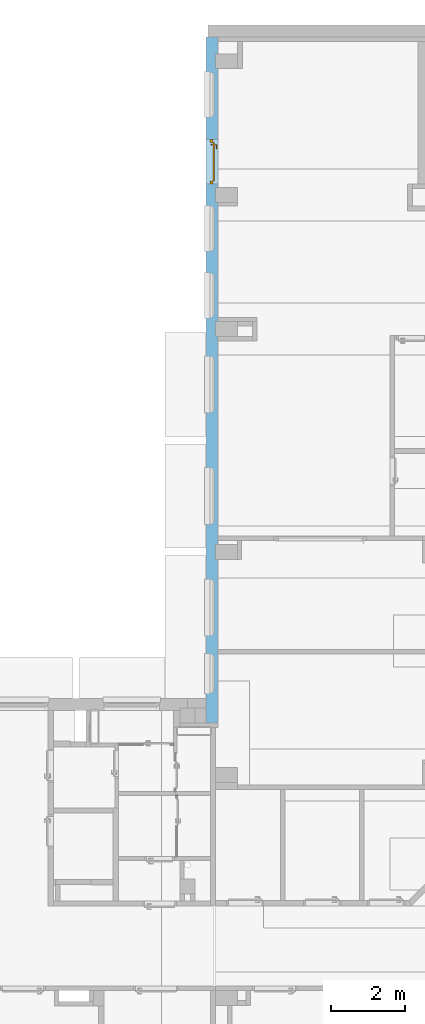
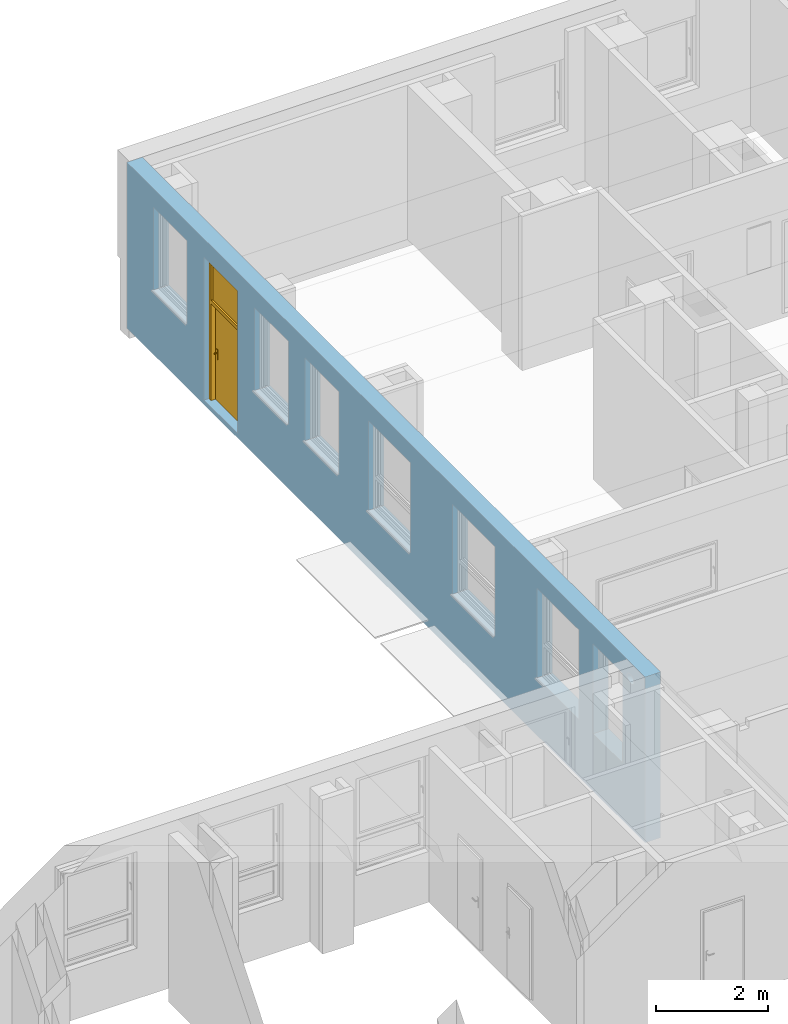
# One storey, part 93 of 140: 1 door, 9 openings, plus 1 element that does not belong to this part.
"""IFC4 building model written with IfcOpenShell, lengths in metres."""

from ifc_helpers import new_model, entity, si_unit, converted_unit, derived_unit, frame, frame_2d, origin, origin_with_axes, place, context, subcontext, project, spatial, polyline, rectangle, outline, extrude, clip, bounded_halfspace, closed_shell, open_shell, surface_model, source, transform, mapped, material, layer, layer_set, layer_usage, type_object, element, fill, save


model = new_model("IFC4")

# Units and contexts
model_context = context("Model", 3, precision=1e-05, world=origin())
body_context = subcontext(model_context, "Body", "Model", "MODEL_VIEW")
ifc_project = project(units=[si_unit("LENGTHUNIT", "METRE"), si_unit("AREAUNIT", "SQUARE_METRE"), si_unit("VOLUMEUNIT", "CUBIC_METRE"), si_unit("MASSUNIT", "GRAM", prefix="KILO"), converted_unit("PLANEANGLEUNIT", "DEGREE", entity("IfcPlaneAngleMeasure", 0.0174532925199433), si_unit("PLANEANGLEUNIT", "RADIAN"), dimensions=[0, 0, 0, 0, 0, 0, 0]), derived_unit("THERMALTRANSMITTANCEUNIT", [(si_unit("POWERUNIT", "WATT"), 1), (si_unit("THERMODYNAMICTEMPERATUREUNIT", "KELVIN"), -1), (si_unit("LENGTHUNIT", "METRE"), -2)]), derived_unit("VOLUMETRICFLOWRATEUNIT", [(si_unit("LENGTHUNIT", "METRE"), 3), (converted_unit("TIMEUNIT", "hour", entity("IfcTimeMeasure", 3600.0), si_unit("TIMEUNIT", "SECOND"), dimensions=[0, 0, 1, 0, 0, 0, 0]), -1), (si_unit("LENGTHUNIT", "METRE"), -1)])], contexts=[model_context])

# Site, building, storey
site_placement = place(None, origin())
site = spatial("IfcSite", under=ifc_project, at=site_placement, Name="3. ASŘ", CompositionType="ELEMENT")
building_placement = place(site_placement, origin())
building = spatial("IfcBuilding", under=site, at=building_placement, Name="Pavilon C", CompositionType="ELEMENT")
storey_placement = place(building_placement, origin())
storey = spatial("IfcBuildingStorey", under=building, at=storey_placement, Name="Půdorys 1.NP", CompositionType="ELEMENT", Elevation=0.0)

# Wall, openings, door
ifc_material = material(Name="ZELEZOBETONOVÁ KCE")
ifc_layer = layer(ifc_material, 0.32)
ifc_layer_set = layer_set([ifc_layer])
ifc_layer_usage = layer_usage(ifc_layer_set, "AXIS2", "POSITIVE", 0.0)
wall_placement = place(storey_placement, frame((24.5, 33.05, -0.1), z_axis=(0.0, 0.0, 1.0), x_axis=(-1.97180423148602e-16, -1.0, 0.0)))
wall = element("IfcWall", 1, at=wall_placement, inside=storey, material=ifc_layer_usage, Name="ZELEZOBETONOVÁ KCE", context=body_context, shape_type="Clipping", body=[
    clip(clip(clip(clip(extrude(rectangle(XDim=18.45, YDim=0.32, at=frame_2d((9.225, 0.16), x_axis=(1.0, 0.0))), origin_with_axes(), (0.0, 0.0, 1.0), 3.6), bounded_halfspace(frame((0.65, 0.285, 3.35), z_axis=(0.0, 0.0, 1.0), x_axis=(1.97180423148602e-16, -1.0, 0.0)), True, origin_with_axes(), polyline([(0.45, 0.32), (0.45, 0.250000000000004), (0.85, 0.250000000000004), (0.85, 0.32), (0.45, 0.32)]))), bounded_halfspace(frame((4.25, 0.285000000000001, 3.35), z_axis=(0.0, 0.0, 1.0), x_axis=(1.97180423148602e-16, -1.0, 0.0)), True, origin_with_axes(), polyline([(4.05, 0.320000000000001), (4.05, 0.250000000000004), (4.45, 0.250000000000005), (4.45, 0.320000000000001), (4.05, 0.320000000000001)]))), bounded_halfspace(frame((7.85, 0.285000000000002, 3.35), z_axis=(0.0, 0.0, 1.0), x_axis=(1.97180423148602e-16, -1.0, 0.0)), True, origin_with_axes(), polyline([(7.65, 0.320000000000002), (7.65, 0.250000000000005), (8.05, 0.250000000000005), (8.05, 0.320000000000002), (7.65, 0.320000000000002)]))), bounded_halfspace(frame((13.85, 0.285000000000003, 3.35), z_axis=(0.0, 0.0, 1.0), x_axis=(1.97180423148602e-16, -1.0, 0.0)), True, origin_with_axes(), polyline([(13.65, 0.320000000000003), (13.65, 0.250000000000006), (14.05, 0.250000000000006), (14.05, 0.320000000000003), (13.65, 0.320000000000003)]))),
])
opening_1_placement = place(wall_placement, frame((18.3295933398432, 0.32, 3.15000000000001), z_axis=(-0.642787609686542, -0.766044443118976, 0.0), x_axis=(0.0, 0.0, 1.0)))
element("IfcOpeningElement", 2, at=opening_1_placement, cuts=wall, Name="CHL", ObjectType="Opening", context=body_context, shape_type="SweptSolid", body=[
    extrude(outline(polyline([(0.0999999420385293, 0.0), (0.0895470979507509, 0.000547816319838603), (0.0792087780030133, 0.00218525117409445), (0.0690982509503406, 0.00489436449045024), (0.059326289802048, 0.00864547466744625), (0.0499999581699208, 0.0133974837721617), (0.0412214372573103, 0.0190983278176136), (0.0330869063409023, 0.0256855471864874), (0.0256854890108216, 0.0330869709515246), (0.0190982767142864, 0.041221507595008), (0.0133974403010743, 0.0500000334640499), (0.00864543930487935, 0.0593263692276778), (0.0048943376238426, 0.0690983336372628), (0.00218523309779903, 0.0792088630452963), (0.000547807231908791, 0.0895471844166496), (0.0, 0.10000002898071), (0.000547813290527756, 0.110452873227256), (0.00218524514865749, 0.120791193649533), (0.00489435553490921, 0.130901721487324), (0.00864546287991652, 0.140673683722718), (0.0133974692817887, 0.150000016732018), (0.0190983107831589, 0.158778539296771), (0.0256855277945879, 0.166913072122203), (0.0330869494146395, 0.174314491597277), (0.0412214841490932, 0.180901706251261), (0.0500000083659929, 0.186602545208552), (0.0593263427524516, 0.191354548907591), (0.06909830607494, 0.195105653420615), (0.0792088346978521, 0.197814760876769), (0.0895471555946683, 0.199452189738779), (0.0999999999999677, 0.2), (0.110452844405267, 0.199452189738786), (0.120791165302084, 0.197814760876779), (0.130901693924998, 0.195105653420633), (0.140673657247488, 0.191354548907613), (0.14999999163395, 0.186602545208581), (0.158778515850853, 0.180901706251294), (0.16691305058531, 0.174314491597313), (0.174314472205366, 0.166913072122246), (0.180901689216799, 0.158778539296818), (0.186602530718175, 0.150000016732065), (0.191354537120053, 0.140673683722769), (0.195105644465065, 0.130901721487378), (0.197814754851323, 0.120791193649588), (0.199452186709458, 0.11045287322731), (0.199999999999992, 0.100000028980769), (0.199452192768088, 0.0895471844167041), (0.197814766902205, 0.0792088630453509), (0.195105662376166, 0.0690983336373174), (0.191354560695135, 0.0593263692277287), (0.186602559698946, 0.0500000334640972), (0.180901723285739, 0.0412215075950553), (0.174314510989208, 0.0330869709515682), (0.166913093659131, 0.0256855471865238), (0.158778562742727, 0.0190983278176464), (0.15000004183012, 0.0133974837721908), (0.140673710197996, 0.00864547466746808), (0.130901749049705, 0.00489436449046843), (0.120791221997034, 0.00218525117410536), (0.110452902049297, 0.000547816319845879), (0.0999999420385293, 0.0)])), origin_with_axes(), (0.0, 0.0, 1.0), 0.952730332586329),
])
opening_2_placement = place(wall_placement, frame((14.6, -7.5914462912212e-16, 1.25), z_axis=(0.0, 1.0, 0.0), x_axis=(0.0, 0.0, 1.0)))
element("IfcOpeningElement", 3, at=opening_2_placement, cuts=wall, Name="Okenní otvor", ObjectType="Opening", context=body_context, shape_type="SweptSolid", body=[
    extrude(outline(polyline([(0.0, 1.5), (1.95, 1.5), (1.95, 0.0), (0.0, 0.0), (0.0, 1.5)])), origin_with_axes(), (0.0, 0.0, 1.0), 0.32),
])
opening_3_placement = place(wall_placement, frame((11.6, -1.35068589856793e-15, 1.25), z_axis=(0.0, 1.0, 0.0), x_axis=(0.0, 0.0, 1.0)))
element("IfcOpeningElement", 4, at=opening_3_placement, cuts=wall, Name="Okenní otvor", ObjectType="Opening", context=body_context, shape_type="SweptSolid", body=[
    extrude(outline(polyline([(0.0, 1.5), (1.95, 1.5), (1.95, 0.0), (0.0, 0.0), (0.0, 1.5)])), origin_with_axes(), (0.0, 0.0, 1.0), 0.32),
])
opening_4_placement = place(wall_placement, frame((8.6, -1.94222716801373e-15, 1.25), z_axis=(0.0, 1.0, 0.0), x_axis=(0.0, 0.0, 1.0)))
element("IfcOpeningElement", 5, at=opening_4_placement, cuts=wall, Name="Okenní otvor", ObjectType="Opening", context=body_context, shape_type="SweptSolid", body=[
    extrude(outline(polyline([(0.0, 1.5), (1.95, 1.5), (1.95, 0.0), (0.0, 0.0), (0.0, 1.5)])), origin_with_axes(), (0.0, 0.0, 1.0), 0.320000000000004),
])
opening_5_placement = place(wall_placement, frame((6.35, 1.25209568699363e-15, 1.4), z_axis=(0.0, 1.0, 0.0), x_axis=(0.0, 0.0, 1.0)))
element("IfcOpeningElement", 6, at=opening_5_placement, cuts=wall, Name="Okenní otvor", ObjectType="Opening", context=body_context, shape_type="SweptSolid", body=[
    extrude(outline(polyline([(0.0, 1.2), (1.8, 1.2), (1.8, 0.0), (0.0, 0.0), (0.0, 1.2)])), origin_with_axes(), (0.0, 0.0, 1.0), 0.32),
])
opening_6_placement = place(wall_placement, frame((4.55000000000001, 8.97170925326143e-16, 1.4), z_axis=(0.0, 1.0, 0.0), x_axis=(0.0, 0.0, 1.0)))
element("IfcOpeningElement", 7, at=opening_6_placement, cuts=wall, Name="Okenní otvor", ObjectType="Opening", context=body_context, shape_type="SweptSolid", body=[
    extrude(outline(polyline([(0.0, 1.2), (1.8, 1.2), (1.8, 0.0), (0.0, 0.0), (0.0, 1.2)])), origin_with_axes(), (0.0, 0.0, 1.0), 0.32),
])
opening_7_placement = place(wall_placement, frame((0.950000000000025, 1.87321401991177e-16, 1.4), z_axis=(-3.5527136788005e-16, 1.0, 0.0), x_axis=(0.0, 0.0, 1.0)))
element("IfcOpeningElement", 8, at=opening_7_placement, cuts=wall, Name="Okenní otvor", ObjectType="Opening", context=body_context, shape_type="SweptSolid", body=[
    extrude(outline(polyline([(0.0, 1.2), (1.8, 1.2), (1.8, 0.0), (0.0, 0.0), (0.0, 1.2)])), origin_with_axes(), (0.0, 0.0, 1.0), 0.32),
])
opening_8_placement = place(wall_placement, frame((2.75000000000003, 5.42246163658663e-16, 0.1), z_axis=(0.0, 1.0, 0.0), x_axis=(0.0, 0.0, 1.0)))
opening_8 = element("IfcOpeningElement", 9, at=opening_8_placement, cuts=wall, Name="Dveřní otvor", ObjectType="Opening", context=body_context, shape_type="SweptSolid", body=[
    extrude(outline(polyline([(0.0, 1.2), (3.1, 1.2), (3.1, 0.0), (0.0, 0.0), (0.0, 1.2)])), origin_with_axes(), (0.0, 0.0, 1.0), 0.32),
])
opening_9_placement = place(wall_placement, frame((16.6, -3.64783782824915e-16, 1.25), z_axis=(0.0, 1.0, 0.0), x_axis=(0.0, 0.0, 1.0)))
element("IfcOpeningElement", 10, at=opening_9_placement, cuts=wall, Name="Okenní otvor", ObjectType="Opening", context=body_context, shape_type="SweptSolid", body=[
    extrude(outline(polyline([(0.0, 1.05), (1.95, 1.05), (1.95, 0.0), (0.0, 0.0), (0.0, 1.05)])), origin_with_axes(), (0.0, 0.0, 1.0), 0.32),
])
door_type = type_object("IfcDoorType", Name="DF01", OperationType="NOTDEFINED", ParameterTakesPrecedence=False, PredefinedType="DOOR")
shared_shape = source(origin_with_axes(), body_context, "Body", "SurfaceModel", [
    surface_model("IfcShellBasedSurfaceModel", [(0.0, 0.0920000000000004, 3.1), (0.0, 0.092, -5.63337527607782e-18), (0.08, 0.092, -5.63337527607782e-18), (0.08, 0.0920000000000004, 3.1), (0.0, 0.0, 5.63337527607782e-18), (0.0, 3.83693077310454e-16, 3.1), (0.08, 3.83693077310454e-16, 3.1), (0.08, 0.0, 5.63337527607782e-18)], [closed_shell([[[0, 1, 2, 3]], [[4, 5, 6, 7]], [[1, 0, 5, 4]], [[2, 1, 4, 7]], [[3, 2, 7, 6]], [[0, 3, 6, 5]]], orient=[[False], [False], [False], [False], [False], [False]])]),
    surface_model("IfcShellBasedSurfaceModel", [(1.12, 0.0920000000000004, 3.1), (1.12, 0.092, -5.63337527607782e-18), (1.2, 0.092, -5.63337527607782e-18), (1.2, 0.0920000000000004, 3.1), (1.12, 0.0, 5.63337527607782e-18), (1.12, 3.83693077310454e-16, 3.1), (1.2, 3.83693077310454e-16, 3.1), (1.2, 0.0, 5.63337527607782e-18)], [closed_shell([[[0, 1, 2, 3]], [[4, 5, 6, 7]], [[1, 0, 5, 4]], [[2, 1, 4, 7]], [[3, 2, 7, 6]], [[0, 3, 6, 5]]], orient=[[False], [False], [False], [False], [False], [False]])]),
    surface_model("IfcShellBasedSurfaceModel", [(0.08, 0.0920000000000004, 3.1), (0.08, 0.0920000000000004, 3.02), (1.12, 0.0920000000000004, 3.02), (1.12, 0.0920000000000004, 3.1), (0.08, 3.69482222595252e-16, 3.02), (0.08, 3.83693077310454e-16, 3.1), (1.12, 3.83693077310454e-16, 3.1), (1.12, 3.69482222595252e-16, 3.02)], [closed_shell([[[0, 1, 2, 3]], [[4, 5, 6, 7]], [[1, 0, 5, 4]], [[2, 1, 4, 7]], [[3, 2, 7, 6]], [[0, 3, 6, 5]]], orient=[[False], [False], [False], [False], [False], [False]])]),
    surface_model("IfcShellBasedSurfaceModel", [(0.08, 0.0920000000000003, 2.18), (0.08, 0.0920000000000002, 2.1), (1.12, 0.0920000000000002, 2.1), (1.12, 0.0920000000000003, 2.18), (0.08, 2.55795384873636e-16, 2.1), (0.08, 2.70006239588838e-16, 2.18), (1.12, 2.70006239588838e-16, 2.18), (1.12, 2.55795384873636e-16, 2.1)], [closed_shell([[[0, 1, 2, 3]], [[4, 5, 6, 7]], [[1, 0, 5, 4]], [[2, 1, 4, 7]], [[3, 2, 7, 6]], [[0, 3, 6, 5]]], orient=[[False], [False], [False], [False], [False], [False]])]),
    surface_model("IfcShellBasedSurfaceModel", [(0.08, 0.132, 2.1), (0.08, 0.132, -1.05319624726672e-17), (1.12, 0.132, -1.05319624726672e-17), (1.12, 0.132, 2.1), (0.08, 0.092, -5.63337527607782e-18), (0.08, 0.0920000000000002, 2.1), (1.12, 0.0920000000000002, 2.1), (1.12, 0.092, -5.63337527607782e-18)], [closed_shell([[[0, 1, 2, 3]], [[4, 5, 6, 7]], [[1, 0, 5, 4]], [[2, 1, 4, 7]], [[3, 2, 7, 6]], [[0, 3, 6, 5]]], orient=[[False], [False], [False], [False], [False], [False]])]),
    surface_model("IfcShellBasedSurfaceModel", [(1.03, 0.0920000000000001, 1.125), (1.03, 0.0920000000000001, 0.91), (1.08, 0.0920000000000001, 0.91), (1.08, 0.0920000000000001, 1.125), (1.03, 0.0820000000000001, 0.91), (1.03, 0.0820000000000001, 1.125), (1.08, 0.0820000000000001, 1.125), (1.08, 0.0820000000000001, 0.91)], [closed_shell([[[0, 1, 2, 3]], [[4, 5, 6, 7]], [[1, 0, 5, 4]], [[2, 1, 4, 7]], [[3, 2, 7, 6]], [[0, 3, 6, 5]]], orient=[[False], [False], [False], [False], [False], [False]])]),
    surface_model("IfcShellBasedSurfaceModel", [(1.06366025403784, 0.0820000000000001, 1.045), (1.065, 0.0820000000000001, 1.05), (1.06366025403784, 0.0820000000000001, 1.055), (1.06, 0.0820000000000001, 1.05866025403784), (1.055, 0.0820000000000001, 1.06), (1.05, 0.0820000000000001, 1.05866025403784), (1.04633974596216, 0.0820000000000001, 1.055), (1.045, 0.0820000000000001, 1.05), (1.04633974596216, 0.0820000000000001, 1.045), (1.05, 0.0820000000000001, 1.04133974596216), (1.055, 0.0820000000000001, 1.04), (1.06, 0.0820000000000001, 1.04133974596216), (1.065, 0.0420000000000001, 1.05), (1.06366025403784, 0.0420000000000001, 1.045), (1.06, 0.0420000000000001, 1.04133974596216), (1.055, 0.0420000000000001, 1.04), (1.05, 0.0420000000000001, 1.04133974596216), (1.04633974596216, 0.0420000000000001, 1.045), (1.045, 0.0420000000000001, 1.05), (1.04633974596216, 0.0420000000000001, 1.055), (1.05, 0.0420000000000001, 1.05866025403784), (1.055, 0.0420000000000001, 1.06), (1.06, 0.0420000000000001, 1.05866025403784), (1.06366025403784, 0.0420000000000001, 1.055)], [closed_shell([[[0, 1, 2, 3, 4, 5, 6, 7, 8, 9, 10, 11]], [[12, 13, 14, 15, 16, 17, 18, 19, 20, 21, 22, 23]], [[1, 0, 13, 12]], [[2, 1, 12, 23]], [[3, 2, 23, 22]], [[4, 3, 22, 21]], [[5, 4, 21, 20]], [[6, 5, 20, 19]], [[7, 6, 19, 18]], [[8, 7, 18, 17]], [[9, 8, 17, 16]], [[10, 9, 16, 15]], [[11, 10, 15, 14]], [[0, 11, 14, 13]]], orient=[[False], [False], [False], [False], [False], [False], [False], [False], [False], [False], [False], [False], [False], [False]])]),
    surface_model("IfcShellBasedSurfaceModel", [(1.075, 0.0420000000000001, 1.05), (1.07232050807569, 0.0320000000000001, 1.05), (1.07, 0.0320000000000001, 1.05866025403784), (1.07232050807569, 0.0420000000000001, 1.06), (1.06366025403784, 0.0320000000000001, 1.065), (1.065, 0.0420000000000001, 1.06732050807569), (1.055, 0.0320000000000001, 1.06732050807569), (1.055, 0.0420000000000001, 1.07), (1.04633974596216, 0.0320000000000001, 1.065), (1.045, 0.0420000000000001, 1.06732050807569), (1.04, 0.0320000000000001, 1.05866025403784), (1.03767949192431, 0.0420000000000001, 1.06), (1.03767949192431, 0.0320000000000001, 1.05), (1.035, 0.0420000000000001, 1.05), (1.04, 0.0320000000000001, 1.04133974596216), (1.03767949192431, 0.0420000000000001, 1.04), (1.04633974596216, 0.0320000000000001, 1.035), (1.045, 0.0420000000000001, 1.03267949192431), (1.055, 0.0320000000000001, 1.03267949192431), (1.055, 0.0420000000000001, 1.03), (1.06366025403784, 0.0320000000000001, 1.035), (1.065, 0.0420000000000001, 1.03267949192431), (1.07, 0.0320000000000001, 1.04133974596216), (1.07232050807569, 0.0420000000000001, 1.04), (1.065, 0.0246794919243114, 1.05), (1.06366025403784, 0.0246794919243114, 1.055), (1.06, 0.0246794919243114, 1.05866025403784), (1.055, 0.0246794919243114, 1.06), (1.05, 0.0246794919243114, 1.05866025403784), (1.04633974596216, 0.0246794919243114, 1.055), (1.045, 0.0246794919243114, 1.05), (1.04633974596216, 0.0246794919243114, 1.045), (1.05, 0.0246794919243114, 1.04133974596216), (1.055, 0.0246794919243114, 1.04), (1.06, 0.0246794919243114, 1.04133974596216), (1.06366025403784, 0.0246794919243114, 1.045), (1.055, 0.0220000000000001, 1.05), (1.07232050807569, 0.0520000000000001, 1.05), (1.07, 0.0520000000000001, 1.05866025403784), (1.06366025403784, 0.0520000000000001, 1.065), (1.055, 0.0520000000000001, 1.06732050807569), (1.04633974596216, 0.0520000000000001, 1.065), (1.04, 0.0520000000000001, 1.05866025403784), (1.03767949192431, 0.0520000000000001, 1.05), (1.04, 0.0520000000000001, 1.04133974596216), (1.04633974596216, 0.0520000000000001, 1.035), (1.055, 0.0520000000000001, 1.03267949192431), (1.06366025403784, 0.0520000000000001, 1.035), (1.07, 0.0520000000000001, 1.04133974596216), (1.065, 0.0593205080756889, 1.05), (1.06366025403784, 0.0593205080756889, 1.055), (1.06, 0.0593205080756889, 1.05866025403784), (1.055, 0.0593205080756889, 1.06), (1.05, 0.0593205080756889, 1.05866025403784), (1.04633974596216, 0.0593205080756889, 1.055), (1.045, 0.0593205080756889, 1.05), (1.04633974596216, 0.0593205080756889, 1.045), (1.05, 0.0593205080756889, 1.04133974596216), (1.055, 0.0593205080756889, 1.04), (1.06, 0.0593205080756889, 1.04133974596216), (1.06366025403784, 0.0593205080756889, 1.045), (1.055, 0.0620000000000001, 1.05)], [closed_shell([[[0, 1, 2, 3]], [[3, 2, 4, 5]], [[5, 4, 6, 7]], [[7, 6, 8, 9]], [[9, 8, 10, 11]], [[11, 10, 12, 13]], [[13, 12, 14, 15]], [[15, 14, 16, 17]], [[17, 16, 18, 19]], [[19, 18, 20, 21]], [[21, 20, 22, 23]], [[23, 22, 1, 0]], [[1, 24, 25, 2]], [[2, 25, 26, 4]], [[4, 26, 27, 6]], [[6, 27, 28, 8]], [[8, 28, 29, 10]], [[10, 29, 30, 12]], [[12, 30, 31, 14]], [[14, 31, 32, 16]], [[16, 32, 33, 18]], [[18, 33, 34, 20]], [[20, 34, 35, 22]], [[22, 35, 24, 1]], [[24, 36, 25]], [[25, 36, 26]], [[26, 36, 27]], [[27, 36, 28]], [[28, 36, 29]], [[29, 36, 30]], [[30, 36, 31]], [[31, 36, 32]], [[32, 36, 33]], [[33, 36, 34]], [[34, 36, 35]], [[35, 36, 24]], [[37, 0, 3, 38]], [[38, 3, 5, 39]], [[39, 5, 7, 40]], [[40, 7, 9, 41]], [[41, 9, 11, 42]], [[42, 11, 13, 43]], [[43, 13, 15, 44]], [[44, 15, 17, 45]], [[45, 17, 19, 46]], [[46, 19, 21, 47]], [[47, 21, 23, 48]], [[48, 23, 0, 37]], [[49, 37, 38, 50]], [[50, 38, 39, 51]], [[51, 39, 40, 52]], [[52, 40, 41, 53]], [[53, 41, 42, 54]], [[54, 42, 43, 55]], [[55, 43, 44, 56]], [[56, 44, 45, 57]], [[57, 45, 46, 58]], [[58, 46, 47, 59]], [[59, 47, 48, 60]], [[60, 48, 37, 49]], [[61, 49, 50]], [[61, 50, 51]], [[61, 51, 52]], [[61, 52, 53]], [[61, 53, 54]], [[61, 54, 55]], [[61, 55, 56]], [[61, 56, 57]], [[61, 57, 58]], [[61, 58, 59]], [[61, 59, 60]], [[61, 60, 49]]], orient=[[False], [False], [False], [False], [False], [False], [False], [False], [False], [False], [False], [False], [False], [False], [False], [False], [False], [False], [False], [False], [False], [False], [False], [False], [False], [False], [False], [False], [False], [False], [False], [False], [False], [False], [False], [False], [False], [False], [False], [False], [False], [False], [False], [False], [False], [False], [False], [False], [False], [False], [False], [False], [False], [False], [False], [False], [False], [False], [False], [False], [False], [False], [False], [False], [False], [False], [False], [False], [False], [False], [False], [False]])]),
    surface_model("IfcShellBasedSurfaceModel", [(1.03, 0.132, 1.125), (1.08, 0.132, 1.125), (1.08, 0.132, 0.91), (1.03, 0.132, 0.91), (1.03, 0.142, 0.91), (1.08, 0.142, 0.91), (1.08, 0.142, 1.125), (1.03, 0.142, 1.125)], [closed_shell([[[0, 1, 2, 3]], [[4, 5, 6, 7]], [[3, 4, 7, 0]], [[2, 5, 4, 3]], [[1, 6, 5, 2]], [[0, 7, 6, 1]]], orient=[[False], [False], [False], [False], [False], [False]])]),
    surface_model("IfcShellBasedSurfaceModel", [(1.055, 0.142, 1.06), (1.06, 0.142, 1.05866025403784), (1.06366025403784, 0.142, 1.055), (1.065, 0.142, 1.05), (1.06366025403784, 0.142, 1.045), (1.06, 0.142, 1.04133974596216), (1.055, 0.142, 1.04), (1.05, 0.142, 1.04133974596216), (1.04633974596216, 0.142, 1.045), (1.045, 0.142, 1.05), (1.04633974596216, 0.142, 1.055), (1.05, 0.142, 1.05866025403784), (1.055, 0.182, 1.06), (1.06, 0.187, 1.05866025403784), (1.06366025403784, 0.190660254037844, 1.055), (1.065, 0.192, 1.05), (1.06366025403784, 0.190660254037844, 1.045), (1.06, 0.187, 1.04133974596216), (1.055, 0.182, 1.04), (1.05, 0.177, 1.04133974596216), (1.04633974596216, 0.173339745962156, 1.045), (1.045, 0.172, 1.05), (1.04633974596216, 0.173339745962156, 1.055), (1.05, 0.177, 1.05866025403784), (0.94, 0.182, 1.06), (0.94, 0.187, 1.05866025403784), (0.94, 0.190660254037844, 1.055), (0.94, 0.192, 1.05), (0.94, 0.190660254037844, 1.045), (0.94, 0.187, 1.04133974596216), (0.94, 0.182, 1.04), (0.94, 0.177, 1.04133974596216), (0.94, 0.173339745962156, 1.045), (0.94, 0.172, 1.05), (0.94, 0.173339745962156, 1.055), (0.94, 0.177, 1.05866025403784)], [open_shell([[[0, 1, 2, 3, 4, 5, 6, 7, 8, 9, 10, 11]], [[0, 12, 13, 1]], [[1, 13, 14, 2]], [[2, 14, 15, 3]], [[3, 15, 16, 4]], [[4, 16, 17, 5]], [[5, 17, 18, 6]], [[6, 18, 19, 7]], [[7, 19, 20, 8]], [[8, 20, 21, 9]], [[9, 21, 22, 10]], [[10, 22, 23, 11]], [[11, 23, 12, 0]], [[12, 24, 25, 13]], [[13, 25, 26, 14]], [[14, 26, 27, 15]], [[15, 27, 28, 16]], [[16, 28, 29, 17]], [[17, 29, 30, 18]], [[18, 30, 31, 19]], [[19, 31, 32, 20]], [[20, 32, 33, 21]], [[21, 33, 34, 22]], [[22, 34, 35, 23]], [[23, 35, 24, 12]]], orient=[[False], [False], [False], [False], [False], [False], [False], [False], [False], [False], [False], [False], [False], [False], [False], [False], [False], [False], [False], [False], [False], [False], [False], [False], [False]])]),
    surface_model("IfcShellBasedSurfaceModel", [(0.08, 0.0560000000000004, 3.02), (0.08, 0.0560000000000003, 2.18), (1.12, 0.0560000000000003, 2.18), (1.12, 0.0560000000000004, 3.02), (0.08, 0.0360000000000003, 2.18), (0.08, 0.0360000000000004, 3.02), (1.12, 0.0360000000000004, 3.02), (1.12, 0.0360000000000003, 2.18)], [closed_shell([[[0, 1, 2, 3]], [[4, 5, 6, 7]], [[1, 0, 5, 4]], [[2, 1, 4, 7]], [[3, 2, 7, 6]], [[0, 3, 6, 5]]], orient=[[False], [False], [False], [False], [False], [False]])]),
])
door_placement = place(opening_8_placement, frame((0.0, 1.20000000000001, 0.0999999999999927), z_axis=(1.0, 0.0, 0.0), x_axis=(0.0, -1.0, -3.19645103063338e-16)))
door = element("IfcDoor", 11, at=door_placement, inside=storey, type_object=door_type, Name="DF01", OverallHeight=3.1, OverallWidth=1.2, context=body_context, shape_type="MappedRepresentation", body=[
    mapped(shared_shape, transform((0.0, 0.0, 0.0), x_axis=(1.0, 0.0, 0.0), y_axis=(0.0, -1.0, 0.0), z_axis=(0.0, 0.0, 1.0), scale=1.0)),
])
fill(opening_8, door)

save(model, "model.ifc")
